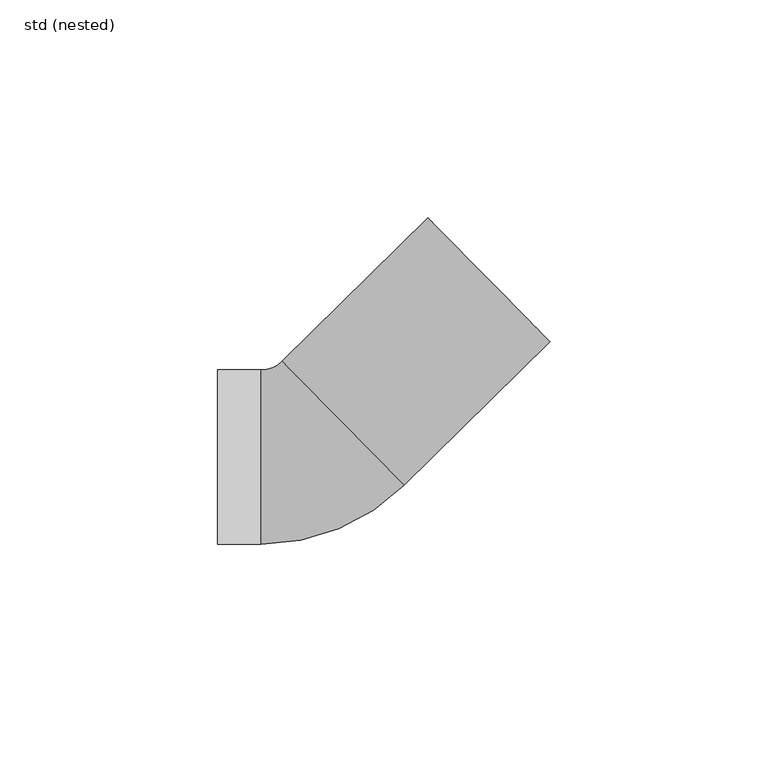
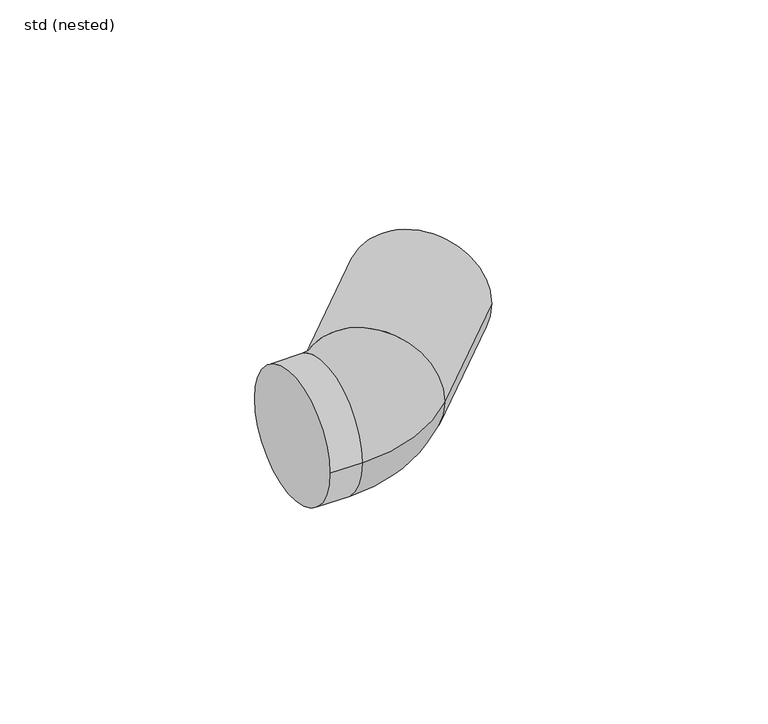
"""IFC4 building model written with IfcOpenShell, lengths in millimetres: pipe fitting geometry, ZZZ_do not use_PIF_ST_UN_ACO pipe bend_ACO : std (nested)."""

from ifc_helpers import new_model, si_unit, point, frame, origin, place, context, project, spatial, circle_curve, ellipse_curve, trimmed, source, transform, mapped, element, save
from ifc_brep_helpers import plane_surface, cylinder_surface, revolved_surface, advanced_brep


def std_nested_c2194d23(model_context):
    return source(origin(), model_context, "Body", "AdvancedBrep", [
        advanced_brep(
        [(-6.1993936, 21.9674195, 0.0), (-11.0, 20.0, 0.0), (-11.0, -20.0, 0.0), (21.8719681, -6.5281705, 0.0), (7.8362873, 7.7196245, 20.0), (7.8362873, 7.7196245, -20.0), (-21.0, -20.0, 0.0), (-21.0, 20.0, 0.0), (55.3542864, 26.4556795, 0.0), (27.2829247, 54.9512695, 0.0)],
        [
            (0, 1, circle_curve(frame((-11.0, 26.840575, 0.0), z_axis=(0.0, 0.0, -1.0), x_axis=(0.0, -1.0, 0.0)), 6.840575)),
            (1, 2, circle_curve(frame((-11.0, 0.0, 0.0), z_axis=(1.0, 0.0, 0.0), x_axis=(0.0, 1.0, 0.0)), 20.0)),
            (2, 3, circle_curve(frame((-11.0, 26.840575, 0.0), z_axis=(0.0, 0.0, 1.0), x_axis=(0.0, -1.0, 0.0)), 46.840575)),
            (3, 4, circle_curve(frame((7.8362873, 7.7196245, 0.0), z_axis=(-0.7123897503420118, -0.7017840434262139, 0.0), x_axis=(-0.7017840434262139, 0.7123897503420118, 0.0)), 20.0)),
            (4, 0, circle_curve(frame((7.8362873, 7.7196245, 0.0), z_axis=(-0.7123897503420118, -0.7017840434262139, 0.0), x_axis=(-0.7017840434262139, 0.7123897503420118, 0.0)), 20.0)),
            (0, 5, circle_curve(frame((7.8362873, 7.7196245, 0.0), z_axis=(-0.7123897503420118, -0.7017840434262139, 0.0), x_axis=(-0.7017840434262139, 0.7123897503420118, 0.0)), 20.0)),
            (5, 3, circle_curve(frame((7.8362873, 7.7196245, 0.0), z_axis=(-0.7123897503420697, -0.7017840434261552, 0.0), x_axis=(-0.7017840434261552, 0.7123897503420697, 0.0)), 20.0)),
            (2, 1, circle_curve(frame((-11.0, 0.0, 0.0), z_axis=(1.0, 0.0, 0.0), x_axis=(0.0, 1.0, 0.0)), 20.0)),
            (6, 7, circle_curve(frame((-21.0, 0.0, 0.0), z_axis=(-1.0, 0.0, 0.0), x_axis=(0.0, 1.0, 0.0)), 20.0)),
            (7, 6, circle_curve(frame((-21.0, 0.0, 0.0), z_axis=(-1.0, 0.0, 0.0), x_axis=(0.0, 1.0, 0.0)), 20.0)),
            (7, 1),
            (2, 6),
            (8, 9, circle_curve(frame((41.3186055, 40.7034745, 0.0), z_axis=(0.7123897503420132, 0.7017840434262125, 0.0), x_axis=(-0.7017840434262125, 0.7123897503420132, 0.0)), 20.0)),
            (9, 8, circle_curve(frame((41.3186055, 40.7034745, 0.0), z_axis=(0.7123897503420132, 0.7017840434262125, 0.0), x_axis=(-0.7017840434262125, 0.7123897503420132, 0.0)), 20.0)),
            (9, 0),
            (3, 8),
        ],
        [
            revolved_surface(trimmed(ellipse_curve(frame((-11.0, 0.0, 0.0), z_axis=(-1.0, 0.0, 0.0), x_axis=(0.0, 1.0, 0.0)), 20.0, 20.0), [point((-11.0, -20.0, 0.0))], [point((-11.0, 20.0, 0.0))], True, "CARTESIAN"), (-11.0, 26.840575, 0.0), (0.0, 0.0, 1.0)),
            revolved_surface(trimmed(ellipse_curve(frame((-11.0, 0.0, 0.0), z_axis=(-1.0, 0.0, 0.0), x_axis=(0.0, 1.0, 0.0)), 20.0, 20.0), [point((-11.0, 20.0, 0.0))], [point((-11.0, -20.0, 0.0))], True, "CARTESIAN"), (-11.0, 26.840575, 0.0), (0.0, 0.0, 1.0)),
            plane_surface(frame((-21.0, 20.0, 0.0), z_axis=(-1.0, 0.0, 0.0), x_axis=(0.0, 0.0, -1.0))),
            cylinder_surface(frame((-21.0, 0.0, 0.0), z_axis=(1.0, 0.0, 0.0), x_axis=(0.0, 1.0, 0.0)), 20.0),
            plane_surface(frame((41.3186055, 40.7034745, 0.0), z_axis=(0.7123897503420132, 0.7017840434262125, 0.0), x_axis=(0.0, 0.0, 1.0))),
            cylinder_surface(frame((7.8362873, 7.7196245, 0.0), z_axis=(-0.7123897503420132, -0.7017840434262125, 0.0), x_axis=(-0.7017840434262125, 0.7123897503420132, 0.0)), 20.0),
        ],
        [
            (0, [[1, 2, 3, 4, 5]]),
            (1, [[-1, 6, 7, -3, 8]]),
            (2, [[9, 10]]),
            (3, [[-10, 11, -8, 12]]),
            (3, [[-9, -12, -2, -11]]),
            (4, [[13, 14]]),
            (5, [[-14, 15, -5, -4, 16]]),
            (5, [[-13, -16, -7, -6, -15]]),
        ],
    ),
    ])


if __name__ == "__main__":
    model = new_model("IFC4")
    model_context = context("Model", 3, world=origin())
    ifc_project = project(units=[si_unit("LENGTHUNIT", "METRE", prefix="MILLI")], contexts=[model_context])
    site = spatial("IfcSite", under=ifc_project)
    building = spatial("IfcBuilding", under=site)
    placement = place(None, origin())
    std_nested_shape = std_nested_c2194d23(model_context)
    element("IfcPipeFitting", 1, ObjectType="ZZZ_do not use_PIF_ST_UN_ACO pipe bend_ACO : std (nested)", at=placement, inside=building, context=model_context, shape_type="MappedRepresentation", body=[
        mapped(std_nested_shape, transform((0.0, 0.0, 0.0), x_axis=(1.0, 0.0, 0.0), y_axis=(0.0, 1.0, 0.0), z_axis=(0.0, 0.0, 1.0))),
    ])
    save(model, "model.ifc")
